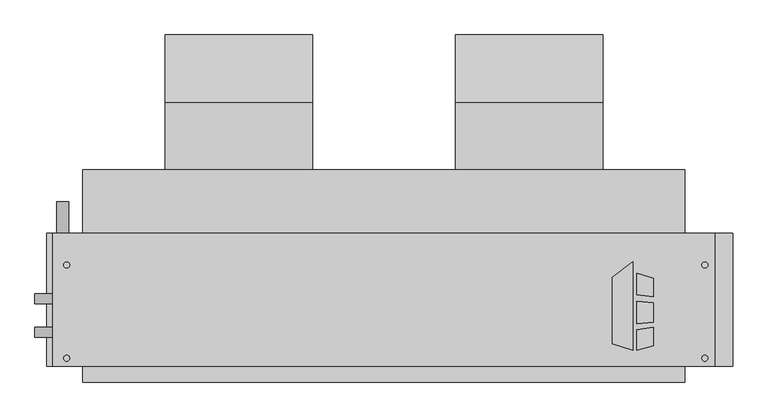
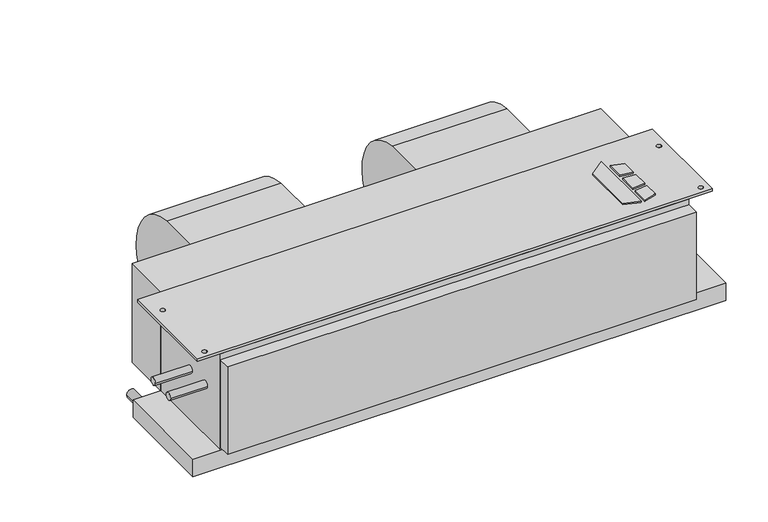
"""IFC4 building model written with IfcOpenShell, lengths in millimetres: proxy geometry, Concealed_Horizontal_Fan_Coil_Unit_-_CHY_-_IEC_-_2-Pipe_Cool-EHeat_LH_2022 : Size 08 - 277v/60Hz/1Ph - 4 Row 6.0kW."""

from ifc_helpers import new_model, si_unit, point, frame, frame_2d, origin, origin_with_axes, place, context, project, spatial, polyline, circle_curve, trimmed, segment, composite_curve, outline, extrude, source, transform, mapped, element, save


def mechanical_equipment_84a4468c(model_context):
    return source(origin(), model_context, "Body", "SweptSolid", [
        extrude(outline(polyline([(518.8019761, -202.5703476), (551.3602728, -177.1330184), (551.3602728, -319.0875), (518.8019761, -308.8679201), (518.8019761, -202.5703476)])), origin_with_axes(), (0.0, 0.0, 1.0), 3.175),
        extrude(outline(polyline([(558.1186058, -230.442352), (558.1186058, -195.9624379), (584.2, -204.1490115), (584.2, -233.6447446), (558.1186058, -230.442352)])), origin_with_axes(), (0.0, 0.0, 1.0), 3.175),
        extrude(outline(polyline([(584.2, -312.0990115), (558.1186058, -319.0875), (558.1186058, -285.8661996), (584.2, -282.3243564), (584.2, -312.0990115)])), origin_with_axes(), (0.0, 0.0, 1.0), 3.175),
        extrude(outline(polyline([(584.2, -242.7263277), (584.2, -273.976483), (558.1186058, -276.717748), (558.1186058, -240.8600378), (584.2, -242.7263277)])), origin_with_axes(), (0.0, 0.0, 1.0), 3.175),
        extrude(outline(composite_curve([segment(trimmed(circle_curve(frame_2d((68.401169, -136.0299844)), 117.3559541), [point((77.7875, -19.05))], [point((185.7375, -138.176))], False, "CARTESIAN"), True, "CONTINUOUS"), segment(trimmed(circle_curve(frame_2d((90.0022663, -136.4250563)), 95.7512443), [point((185.7375, -138.176))], [point((77.7875, -231.394))], False, "CARTESIAN"), True, "CONTINUOUS"), segment(trimmed(circle_curve(frame_2d((89.9711869, -136.6666968)), 95.5076133), [point((77.7875, -231.394))], [point((-5.5245, -138.176))], False, "CARTESIAN"), True, "CONTINUOUS"), segment(trimmed(circle_curve(frame_2d((-24.6059828, -138.4775816)), 19.0838659), [point((-5.5245, -138.176))], [point((-17.7963373, -120.65))], True, "CARTESIAN"), True, "CONTINUOUS"), segment(polyline([(-17.7963373, -120.65), (-30.1625, -120.65), (-30.1625, -19.05), (77.7875, -19.05)]), True, "CONTINUOUS")], self_intersect=False)), frame((267.5255, 0.0, 0.0), z_axis=(1.0, 0.0, 0.0), x_axis=(0.0, 1.0, 0.0)), (0.0, 0.0, 1.0), 235.712),
        extrude(outline(composite_curve([segment(trimmed(circle_curve(frame_2d((68.401169, -136.0299844)), 117.3559541), [point((77.7875, -19.05))], [point((185.7375, -138.176))], False, "CARTESIAN"), True, "CONTINUOUS"), segment(trimmed(circle_curve(frame_2d((90.0022663, -136.4250563)), 95.7512443), [point((185.7375, -138.176))], [point((77.7875, -231.394))], False, "CARTESIAN"), True, "CONTINUOUS"), segment(trimmed(circle_curve(frame_2d((89.9711869, -136.6666968)), 95.5076133), [point((77.7875, -231.394))], [point((-5.5245, -138.176))], False, "CARTESIAN"), True, "CONTINUOUS"), segment(trimmed(circle_curve(frame_2d((-24.6059828, -138.4775816)), 19.0838659), [point((-5.5245, -138.176))], [point((-17.7963373, -120.65))], True, "CARTESIAN"), True, "CONTINUOUS"), segment(polyline([(-17.7963373, -120.65), (-30.1625, -120.65), (-30.1625, -19.05), (77.7875, -19.05)]), True, "CONTINUOUS")], self_intersect=False)), frame((-197.612, 0.0, 0.0), z_axis=(1.0, 0.0, 0.0), x_axis=(0.0, 1.0, 0.0)), (0.0, 0.0, 1.0), 235.712),
        extrude(outline(polyline([(682.625, -131.7625), (682.625, -344.4875), (-377.825, -344.4875), (-377.825, -131.7625), (682.625, -131.7625)]), holes=[composite_curve([segment(trimmed(circle_curve(frame_2d((-355.6, -182.5625)), 4.7625), [point((-360.3625, -182.5625))], [point((-350.8375, -182.5625))], True, "CARTESIAN"), True, "CONTINUOUS"), segment(trimmed(circle_curve(frame_2d((-355.6, -182.5625)), 4.7625), [point((-350.8375, -182.5625))], [point((-360.3625, -182.5625))], True, "CARTESIAN"), True, "CONTINUOUS")], self_intersect=False), composite_curve([segment(trimmed(circle_curve(frame_2d((-355.6, -331.7875)), 4.7625), [point((-360.3625, -331.7875))], [point((-350.8375, -331.7875))], True, "CARTESIAN"), True, "CONTINUOUS"), segment(trimmed(circle_curve(frame_2d((-355.6, -331.7875)), 4.7625), [point((-350.8375, -331.7875))], [point((-360.3625, -331.7875))], True, "CARTESIAN"), True, "CONTINUOUS")], self_intersect=False), composite_curve([segment(trimmed(circle_curve(frame_2d((666.75, -182.5625)), 4.7625), [point((661.9875, -182.5625))], [point((671.5125, -182.5625))], True, "CARTESIAN"), True, "CONTINUOUS"), segment(trimmed(circle_curve(frame_2d((666.75, -182.5625)), 4.7625), [point((671.5125, -182.5625))], [point((661.9875, -182.5625))], True, "CARTESIAN"), True, "CONTINUOUS")], self_intersect=False), composite_curve([segment(trimmed(circle_curve(frame_2d((666.75, -331.7875)), 4.7625), [point((661.9875, -331.7875))], [point((671.5125, -331.7875))], True, "CARTESIAN"), True, "CONTINUOUS"), segment(trimmed(circle_curve(frame_2d((666.75, -331.7875)), 4.7625), [point((671.5125, -331.7875))], [point((661.9875, -331.7875))], True, "CARTESIAN"), True, "CONTINUOUS")], self_intersect=False)]), frame((0.0, 0.0, -6.35), z_axis=(0.0, 0.0, 1.0), x_axis=(1.0, 0.0, 0.0)), (0.0, 0.0, 1.0), 6.35),
        extrude(outline(polyline([(-330.2, -30.1625), (635.0, -30.1625), (635.0, -131.7625), (-330.2, -131.7625), (-330.2, -30.1625)])), frame((0.0, 0.0, -215.9), z_axis=(0.0, 0.0, 1.0), x_axis=(1.0, 0.0, 0.0)), (0.0, 0.0, 1.0), 215.9),
        extrude(outline(composite_curve([segment(trimmed(circle_curve(frame_2d((-241.3, -361.95)), 9.525), [point((-241.3, -371.475))], [point((-241.3, -352.425))], False, "CARTESIAN"), True, "CONTINUOUS"), segment(trimmed(circle_curve(frame_2d((-241.3, -361.95)), 9.525), [point((-241.3, -352.425))], [point((-241.3, -371.475))], False, "CARTESIAN"), True, "CONTINUOUS")], self_intersect=False)), frame((0.0, -131.7625, 0.0), z_axis=(0.0, 1.0, 0.0), x_axis=(0.0, 0.0, 1.0)), (0.0, 0.0, 1.0), 50.8),
        extrude(outline(polyline([(635.0, -369.8875), (-330.2, -369.8875), (-330.2, -344.4875), (635.0, -344.4875), (635.0, -369.8875)])), frame((0.0, 0.0, -209.55), z_axis=(0.0, 0.0, 1.0), x_axis=(1.0, 0.0, 0.0)), (0.0, 0.0, 1.0), 190.5),
        extrude(outline(polyline([(711.2, -131.7625), (711.2, -344.4875), (-387.35, -344.4875), (-387.35, -131.7625), (711.2, -131.7625)])), frame((0.0, 0.0, -254.0), z_axis=(0.0, 0.0, 1.0), x_axis=(1.0, 0.0, 0.0)), (0.0, 0.0, 1.0), 38.1),
        extrude(outline(composite_curve([segment(trimmed(circle_curve(frame_2d((-290.5125, -104.775)), 7.9375), [point((-282.575, -104.775))], [point((-298.45, -104.775))], False, "CARTESIAN"), True, "CONTINUOUS"), segment(trimmed(circle_curve(frame_2d((-290.5125, -104.775)), 7.9375), [point((-298.45, -104.775))], [point((-282.575, -104.775))], False, "CARTESIAN"), True, "CONTINUOUS")], self_intersect=False)), frame((-406.4, 0.0, 0.0), z_axis=(1.0, 0.0, 0.0), x_axis=(0.0, 1.0, 0.0)), (0.0, 0.0, 1.0), 76.2),
        extrude(outline(composite_curve([segment(trimmed(circle_curve(frame_2d((-236.5375, -104.775)), 7.9375), [point((-228.6, -104.775))], [point((-244.475, -104.775))], False, "CARTESIAN"), True, "CONTINUOUS"), segment(trimmed(circle_curve(frame_2d((-236.5375, -104.775)), 7.9375), [point((-244.475, -104.775))], [point((-228.6, -104.775))], False, "CARTESIAN"), True, "CONTINUOUS")], self_intersect=False)), frame((-406.4, 0.0, 0.0), z_axis=(1.0, 0.0, 0.0), x_axis=(0.0, 1.0, 0.0)), (0.0, 0.0, 1.0), 76.2),
        extrude(outline(polyline([(635.0, -344.4875), (-330.2, -344.4875), (-330.2, -131.7625), (635.0, -131.7625), (635.0, -344.4875)])), frame((0.0, 0.0, -215.9), z_axis=(0.0, 0.0, 1.0), x_axis=(1.0, 0.0, 0.0)), (0.0, 0.0, 1.0), 209.55),
    ])


if __name__ == "__main__":
    model = new_model("IFC4")
    model_context = context("Model", 3, world=origin())
    ifc_project = project(units=[si_unit("LENGTHUNIT", "METRE", prefix="MILLI")], contexts=[model_context])
    site = spatial("IfcSite", under=ifc_project)
    building = spatial("IfcBuilding", under=site)
    placement = place(None, origin())
    mechanical_equipment_shape = mechanical_equipment_84a4468c(model_context)
    element("IfcBuildingElementProxy", 1, Name="Concealed_Horizontal_Fan_Coil_Unit_-_CHY_-_IEC_-_2-Pipe_Cool-EHeat_LH_2022 : Size 08 - 277v/60Hz/1Ph - 4 Row 6.0kW", ObjectType="Concealed_Horizontal_Fan_Coil_Unit_-_CHY_-_IEC_-_2-Pipe_Cool-EHeat_LH_2022 : Size 08 - 277v/60Hz/1Ph - 4 Row 6.0kW", at=placement, inside=building, context=model_context, shape_type="MappedRepresentation", body=[
        mapped(mechanical_equipment_shape, transform((0.0, 0.0, 0.0), x_axis=(1.0, 0.0, 0.0), y_axis=(0.0, 1.0, 0.0), z_axis=(0.0, 0.0, 1.0))),
    ])
    save(model, "model.ifc")
